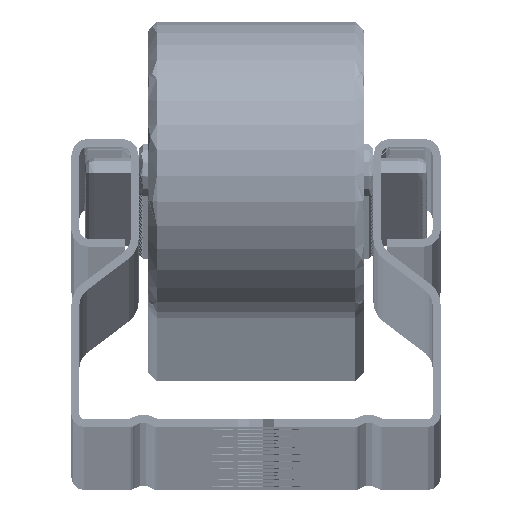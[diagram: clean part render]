
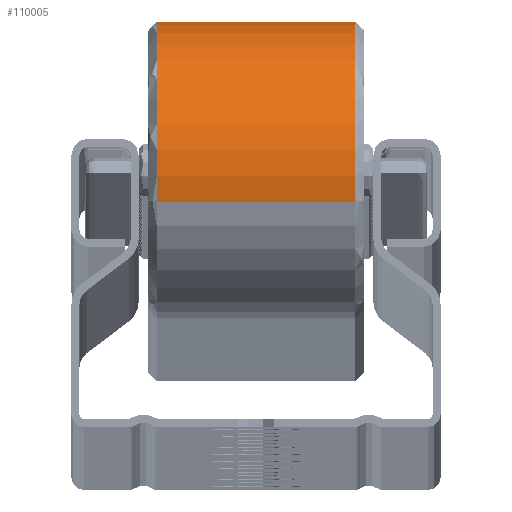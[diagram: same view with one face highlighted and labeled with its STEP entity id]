
A CAD part, top view. The second image highlights one B-rep face of the part: STEP entity #110005.
In plain terms, the highlighted cylindrical face has radius 16.5 mm (diameter 33 mm), a partial arc.
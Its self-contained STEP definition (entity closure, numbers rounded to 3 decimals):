
#16 = EDGE_CURVE ( 'NONE', #50201, #39368, #87438, .T. ) ;
#5877 = ORIENTED_EDGE ( 'NONE', *, *, #120361, .T. ) ;
#5905 = DIRECTION ( 'NONE',  ( -1., 0., 0. ) ) ;
#13424 = AXIS2_PLACEMENT_3D ( 'NONE', #36629, #91308, #5905 ) ;
#13696 = VECTOR ( 'NONE', #34497, 1000. ) ;
#17117 = CARTESIAN_POINT ( 'NONE',  ( 16.5, 0., 24. ) ) ;
#18688 = EDGE_CURVE ( 'NONE', #26547, #31879, #79283, .T. ) ;
#24505 = CARTESIAN_POINT ( 'NONE',  ( 16.5, 0., 1. ) ) ;
#26547 = VERTEX_POINT ( 'NONE', #41904 ) ;
#30636 = CARTESIAN_POINT ( 'NONE',  ( 0., 0., 23. ) ) ;
#31879 = VERTEX_POINT ( 'NONE', #95727 ) ;
#34497 = DIRECTION ( 'NONE',  ( 0., 0., -1. ) ) ;
#36337 = ORIENTED_EDGE ( 'NONE', *, *, #18688, .T. ) ;
#36629 = CARTESIAN_POINT ( 'NONE',  ( 0., 0., 24. ) ) ;
#37745 = CARTESIAN_POINT ( 'NONE',  ( 0., 0., 1. ) ) ;
#39368 = VERTEX_POINT ( 'NONE', #24505 ) ;
#41904 = CARTESIAN_POINT ( 'NONE',  ( -16.5, 0., 23. ) ) ;
#46491 = DIRECTION ( 'NONE',  ( 0., 0., 1. ) ) ;
#50201 = VERTEX_POINT ( 'NONE', #119585 ) ;
#51898 = CIRCLE ( 'NONE', #106044, 16.5 ) ;
#53195 = VECTOR ( 'NONE', #86847, 1000. ) ;
#73771 = CIRCLE ( 'NONE', #93463, 16.5 ) ;
#75728 = DIRECTION ( 'NONE',  ( -1., 0., 0. ) ) ;
#77202 = EDGE_CURVE ( 'NONE', #31879, #39368, #73771, .T. ) ;
#79283 = LINE ( 'NONE', #113834, #13696 ) ;
#80371 = DIRECTION ( 'NONE',  ( -1., 0., 0. ) ) ;
#86847 = DIRECTION ( 'NONE',  ( 0., 0., -1. ) ) ;
#87438 = LINE ( 'NONE', #17117, #53195 ) ;
#91308 = DIRECTION ( 'NONE',  ( 0., 0., -1. ) ) ;
#93463 = AXIS2_PLACEMENT_3D ( 'NONE', #37745, #46491, #75728 ) ;
#93589 = CYLINDRICAL_SURFACE ( 'NONE', #13424, 16.5 ) ;
#95727 = CARTESIAN_POINT ( 'NONE',  ( -16.5, 0., 1. ) ) ;
#101005 = ORIENTED_EDGE ( 'NONE', *, *, #77202, .T. ) ;
#104336 = EDGE_LOOP ( 'NONE', ( #127231, #5877, #36337, #101005 ) ) ;
#106044 = AXIS2_PLACEMENT_3D ( 'NONE', #30636, #122162, #80371 ) ;
#107694 = FACE_OUTER_BOUND ( 'NONE', #104336, .T. ) ;
#110005 = ADVANCED_FACE ( 'NONE', ( #107694 ), #93589, .T. ) ;
#113834 = CARTESIAN_POINT ( 'NONE',  ( -16.5, 0., 24. ) ) ;
#119585 = CARTESIAN_POINT ( 'NONE',  ( 16.5, 0., 23. ) ) ;
#120361 = EDGE_CURVE ( 'NONE', #50201, #26547, #51898, .T. ) ;
#122162 = DIRECTION ( 'NONE',  ( 0., 0., -1. ) ) ;
#127231 = ORIENTED_EDGE ( 'NONE', *, *, #16, .F. ) ;
